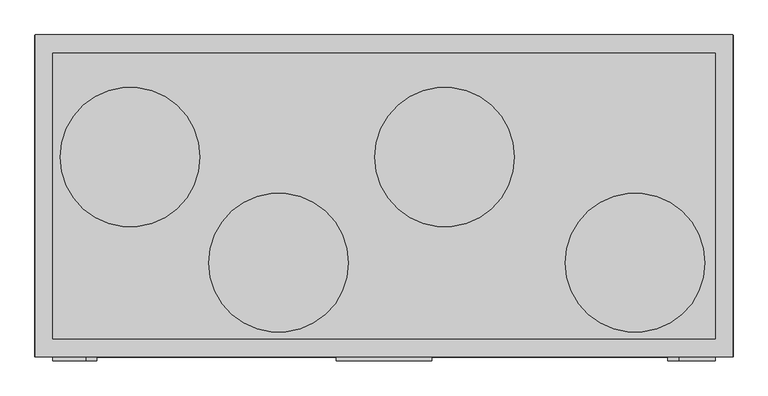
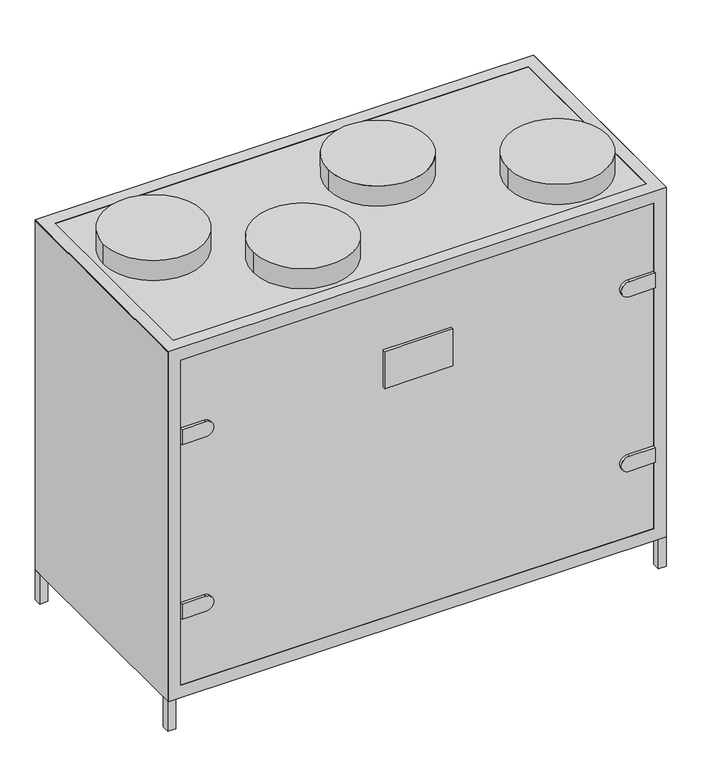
"""IFC4 building model written with IfcOpenShell, lengths in millimetres: proxy geometry, AVS 400...1600-V-RC(RG) : AVS 1600-V-RG."""

from ifc_helpers import new_model, si_unit, point, frame, frame_2d, origin, origin_with_axes, place, context, project, spatial, polyline, circle_curve, trimmed, segment, composite_curve, outline, extrude, faceted_brep, source, transform, mapped, element, save


def mechanical_equipment_4fb69c1d(model_context):
    return source(origin(), model_context, "Body", "SolidModel", [
        extrude(outline(polyline([(763.0, 363.0), (788.0, 363.0), (788.0, 338.0), (763.0, 338.0), (763.0, 363.0)])), origin_with_axes(), (0.0, 0.0, 1.0), 100.0),
        extrude(outline(polyline([(763.0, -363.0), (763.0, -338.0), (788.0, -338.0), (788.0, -363.0), (763.0, -363.0)])), origin_with_axes(), (0.0, 0.0, 1.0), 100.0),
        extrude(outline(polyline([(-788.0, 338.0), (-788.0, 363.0), (-763.0, 363.0), (-763.0, 338.0), (-788.0, 338.0)])), origin_with_axes(), (0.0, 0.0, 1.0), 100.0),
        extrude(outline(polyline([(-788.0, -338.0), (-763.0, -338.0), (-763.0, -363.0), (-788.0, -363.0), (-788.0, -338.0)])), origin_with_axes(), (0.0, 0.0, 1.0), 100.0),
        faceted_brep([(787.0, 364.0, 1268.0), (-787.0, 364.0, 1268.0), (-787.0, -364.0, 1268.0), (787.0, -364.0, 1268.0), (-748.0, 323.0, 1268.0), (20.0, 323.0, 1268.0), (748.0, 323.0, 1268.0), (748.0, -323.0, 1268.0), (20.0, -323.0, 1268.0), (-748.0, -323.0, 1268.0), (787.0, 364.0, 99.0), (787.0, -364.0, 99.0), (-787.0, -364.0, 99.0), (-787.0, 364.0, 99.0), (20.0, 323.0, 99.0), (-748.0, 323.0, 99.0), (-748.0, -323.0, 99.0), (20.0, -323.0, 99.0), (748.0, -323.0, 99.0), (748.0, 323.0, 99.0), (20.0, 364.0, 1227.0), (-748.0, 364.0, 1227.0), (-748.0, 364.0, 140.0), (20.0, 364.0, 140.0), (748.0, 364.0, 140.0), (748.0, 364.0, 1227.0), (-787.0, -323.0, 1227.0), (-787.0, -323.0, 140.0), (-787.0, 323.0, 140.0), (-787.0, 323.0, 1227.0), (-748.0, -364.0, 1227.0), (20.0, -364.0, 1227.0), (748.0, -364.0, 1227.0), (748.0, -364.0, 140.0), (20.0, -364.0, 140.0), (-748.0, -364.0, 140.0), (787.0, -323.0, 140.0), (787.0, -323.0, 1227.0), (787.0, 323.0, 1227.0), (787.0, 323.0, 140.0), (-748.0, 323.0, 1227.0), (20.0, 323.0, 1227.0), (20.0, 323.0, 140.0), (-748.0, 323.0, 140.0), (20.0, -323.0, 1227.0), (-748.0, -323.0, 1227.0), (-748.0, -323.0, 140.0), (20.0, -323.0, 140.0), (748.0, 323.0, 1227.0), (748.0, -323.0, 1227.0), (748.0, -323.0, 140.0), (748.0, 323.0, 140.0)], [[[0, 1, 2, 3], [4, 5, 6, 7, 8, 9]], [[10, 11, 12, 13], [14, 15, 16, 17, 18, 19]], [[1, 0, 10, 13], [20, 21, 22, 23, 24, 25]], [[2, 1, 13, 12], [26, 27, 28, 29]], [[3, 2, 12, 11], [30, 31, 32, 33, 34, 35]], [[0, 3, 11, 10], [36, 37, 38, 39]], [[5, 4, 40, 41]], [[15, 14, 42, 43]], [[9, 8, 44, 45]], [[17, 16, 46, 47]], [[7, 6, 48, 49]], [[19, 18, 50, 51]], [[32, 49, 50, 33]], [[48, 25, 24, 51]], [[30, 45, 44, 31]], [[20, 41, 40, 21]], [[46, 35, 34, 47]], [[42, 23, 22, 43]], [[26, 45, 46, 27]], [[49, 37, 36, 50]], [[50, 36, 39, 51]], [[43, 28, 27, 46]], [[51, 39, 38, 48]], [[40, 29, 28, 43]], [[37, 49, 48, 38]], [[29, 40, 45, 26]], [[4, 9, 45, 40]], [[16, 15, 43, 46]], [[45, 30, 35, 46]], [[21, 40, 43, 22]], [[6, 5, 41, 48]], [[14, 19, 51, 42]], [[8, 7, 49, 44]], [[18, 17, 47, 50]], [[49, 32, 31, 44]], [[41, 20, 25, 48]], [[33, 50, 47, 34]], [[23, 42, 51, 24]]]),
        extrude(outline(polyline([(-788.0, 363.0), (788.0, 363.0), (788.0, -363.0), (-788.0, -363.0), (-788.0, 363.0)])), frame((0.0, 0.0, 100.0), z_axis=(0.0, 0.0, 1.0), x_axis=(1.0, 0.0, 0.0)), (0.0, 0.0, 1.0), 1167.0),
        extrude(outline(composite_curve([segment(trimmed(circle_curve(frame_2d((-573.0, 88.0)), 157.5), [point((-415.5, 88.0))], [point((-730.5, 88.0))], False, "CARTESIAN"), True, "CONTINUOUS"), segment(trimmed(circle_curve(frame_2d((-573.0, 88.0)), 157.5), [point((-730.5, 88.0))], [point((-415.5, 88.0))], False, "CARTESIAN"), True, "CONTINUOUS")], self_intersect=False)), frame((0.0, 0.0, 1268.0), z_axis=(0.0, 0.0, 1.0), x_axis=(1.0, 0.0, 0.0)), (0.0, 0.0, 1.0), 67.0),
        extrude(outline(composite_curve([segment(trimmed(circle_curve(frame_2d((-238.0, -151.0)), 157.5), [point((-80.5, -151.0))], [point((-395.5, -151.0))], False, "CARTESIAN"), True, "CONTINUOUS"), segment(trimmed(circle_curve(frame_2d((-238.0, -151.0)), 157.5), [point((-395.5, -151.0))], [point((-80.5, -151.0))], False, "CARTESIAN"), True, "CONTINUOUS")], self_intersect=False)), frame((0.0, 0.0, 1268.0), z_axis=(0.0, 0.0, 1.0), x_axis=(1.0, 0.0, 0.0)), (0.0, 0.0, 1.0), 67.0),
        extrude(outline(composite_curve([segment(trimmed(circle_curve(frame_2d((137.0, 88.0)), 157.5), [point((294.5, 88.0))], [point((-20.5, 88.0))], False, "CARTESIAN"), True, "CONTINUOUS"), segment(trimmed(circle_curve(frame_2d((137.0, 88.0)), 157.5), [point((-20.5, 88.0))], [point((294.5, 88.0))], False, "CARTESIAN"), True, "CONTINUOUS")], self_intersect=False)), frame((0.0, 0.0, 1268.0), z_axis=(0.0, 0.0, 1.0), x_axis=(1.0, 0.0, 0.0)), (0.0, 0.0, 1.0), 67.0),
        extrude(outline(composite_curve([segment(trimmed(circle_curve(frame_2d((567.0, -151.0)), 157.5), [point((724.5, -151.0))], [point((409.5, -151.0))], False, "CARTESIAN"), True, "CONTINUOUS"), segment(trimmed(circle_curve(frame_2d((567.0, -151.0)), 157.5), [point((409.5, -151.0))], [point((724.5, -151.0))], False, "CARTESIAN"), True, "CONTINUOUS")], self_intersect=False)), frame((0.0, 0.0, 1268.0), z_axis=(0.0, 0.0, 1.0), x_axis=(1.0, 0.0, 0.0)), (0.0, 0.0, 1.0), 67.0),
        extrude(outline(composite_curve([segment(polyline([(1000.25, -673.2895396), (1000.25, -748.0), (950.25, -748.0), (950.25, -673.2895396)]), True, "CONTINUOUS"), segment(trimmed(circle_curve(frame_2d((975.25, -673.2895396)), 25.0), [point((950.25, -673.2895396))], [point((1000.25, -673.2895396))], False, "CARTESIAN"), True, "CONTINUOUS")], self_intersect=False)), frame((0.0, -373.0, 0.0), z_axis=(0.0, 1.0, 0.0), x_axis=(0.0, 0.0, 1.0)), (0.0, 0.0, 1.0), 10.0),
        extrude(outline(composite_curve([segment(polyline([(416.75, -673.2895396), (416.75, -748.0), (366.75, -748.0), (366.75, -673.2895396)]), True, "CONTINUOUS"), segment(trimmed(circle_curve(frame_2d((391.75, -673.2895396)), 25.0), [point((366.75, -673.2895396))], [point((416.75, -673.2895396))], False, "CARTESIAN"), True, "CONTINUOUS")], self_intersect=False)), frame((0.0, -373.0, 0.0), z_axis=(0.0, 1.0, 0.0), x_axis=(0.0, 0.0, 1.0)), (0.0, 0.0, 1.0), 10.0),
        extrude(outline(polyline([(108.0, -373.0), (-108.0, -373.0), (-108.0, -363.0), (108.0, -363.0), (108.0, -373.0)])), frame((0.0, 0.0, 913.5), z_axis=(0.0, 0.0, 1.0), x_axis=(1.0, 0.0, 0.0)), (0.0, 0.0, 1.0), 123.5),
        extrude(outline(composite_curve([segment(trimmed(circle_curve(frame_2d((975.25, 665.2895396)), 25.0), [point((1000.25, 665.2895396))], [point((950.25, 665.2895396))], False, "CARTESIAN"), True, "CONTINUOUS"), segment(polyline([(950.25, 665.2895396), (950.25, 748.0), (1000.25, 748.0), (1000.25, 665.2895396)]), True, "CONTINUOUS")], self_intersect=False)), frame((0.0, -373.0, 0.0), z_axis=(0.0, 1.0, 0.0), x_axis=(0.0, 0.0, 1.0)), (0.0, 0.0, 1.0), 10.0),
        extrude(outline(composite_curve([segment(trimmed(circle_curve(frame_2d((391.75, 665.2895396)), 25.0), [point((416.75, 665.2895396))], [point((366.75, 665.2895396))], False, "CARTESIAN"), True, "CONTINUOUS"), segment(polyline([(366.75, 665.2895396), (366.75, 748.0), (416.75, 748.0), (416.75, 665.2895396)]), True, "CONTINUOUS")], self_intersect=False)), frame((0.0, -373.0, 0.0), z_axis=(0.0, 1.0, 0.0), x_axis=(0.0, 0.0, 1.0)), (0.0, 0.0, 1.0), 10.0),
    ])


if __name__ == "__main__":
    model = new_model("IFC4")
    model_context = context("Model", 3, world=origin())
    ifc_project = project(units=[si_unit("LENGTHUNIT", "METRE", prefix="MILLI")], contexts=[model_context])
    site = spatial("IfcSite", under=ifc_project)
    building = spatial("IfcBuilding", under=site)
    placement = place(None, origin())
    mechanical_equipment_shape = mechanical_equipment_4fb69c1d(model_context)
    element("IfcBuildingElementProxy", 1, Name="AVS 400...1600-V-RC(RG) : AVS 1600-V-RG", ObjectType="AVS 400...1600-V-RC(RG) : AVS 1600-V-RG", at=placement, inside=building, context=model_context, shape_type="MappedRepresentation", body=[
        mapped(mechanical_equipment_shape, transform((0.0, 0.0, 0.0), x_axis=(1.0, 0.0, 0.0), y_axis=(0.0, 1.0, 0.0), z_axis=(0.0, 0.0, 1.0))),
    ])
    save(model, "model.ifc")
